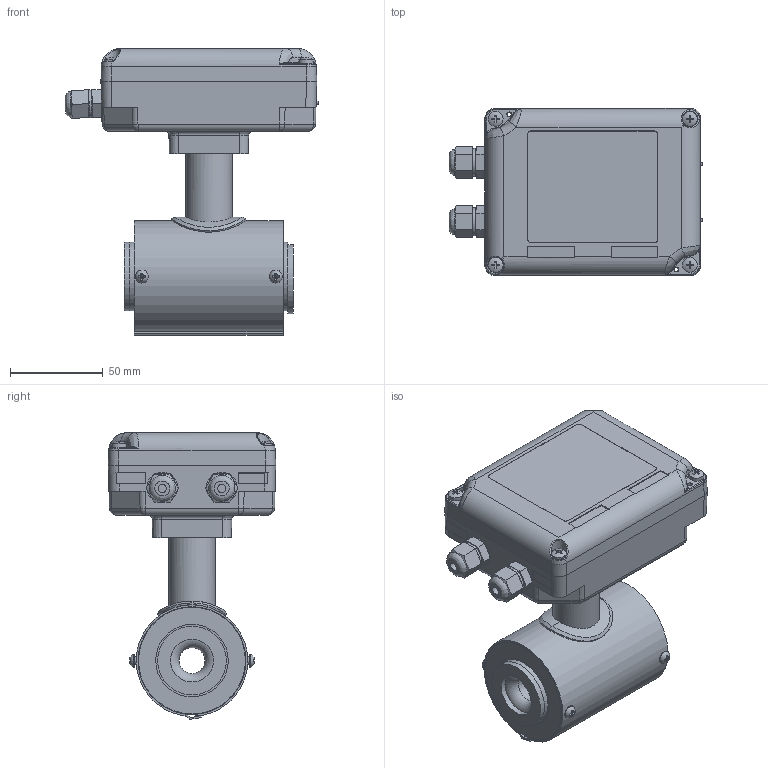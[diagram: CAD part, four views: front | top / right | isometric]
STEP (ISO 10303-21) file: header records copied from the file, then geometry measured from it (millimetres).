
FILE_DESCRIPTION(('STEP AP242'), '1');
FILE_NAME('DN15', '', ('UNSPECIFIED'), ('UNSPECIFIED'), 'ASCON STEP Converter 1.6', 'ASCON Math Kernel', '');
FILE_SCHEMA(('AP242_MANAGED_MODEL_BASED_3D_ENGINEERING_MIM_LF { 1 0 10303 442 1 1 4 }'));
Length unit declared in the file: millimetre
Bounding box: 136.5 x 90 x 154.19 mm (x, y, z)
Volume: 230020.2 mm3; surface area: 182027.5 mm2
Topology: 33 solids, 33 shells, 1251 faces, 2949 edges, 1773 vertices
Faces by surface type: plane 495, cylinder 364, bspline 227, cone 131, torus 22, sphere 12
Full cylindrical faces by diameter (mm): 2 x2, 2.3 x9, 3 x2, 3.422 x4, 3.6 x8, 4 x8, 4.5 x4, 5.5 x8, 6 x2, 7 x15, 8 x6, 12 x6, 12.2 x2, 12.5 x2, 14 x1, 15 x2, 16.5 x2, 17 x1, 18 x1, 19 x1, 19.5 x2, 21 x3, 22 x1, 23 x2, 25 x1, 26 x4, 27 x1, 30 x1, 37 x4, 58 x2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
Entity records: 100890 total; most frequent: CARTESIAN_POINT 65897, ORIENTED_EDGE 5218, DIRECTION 4155, EDGE_CURVE 2609, VERTEX_POINT 1767, EDGE_LOOP 1688, AXIS2_PLACEMENT_3D 1513, COLOUR_RGB 1284
